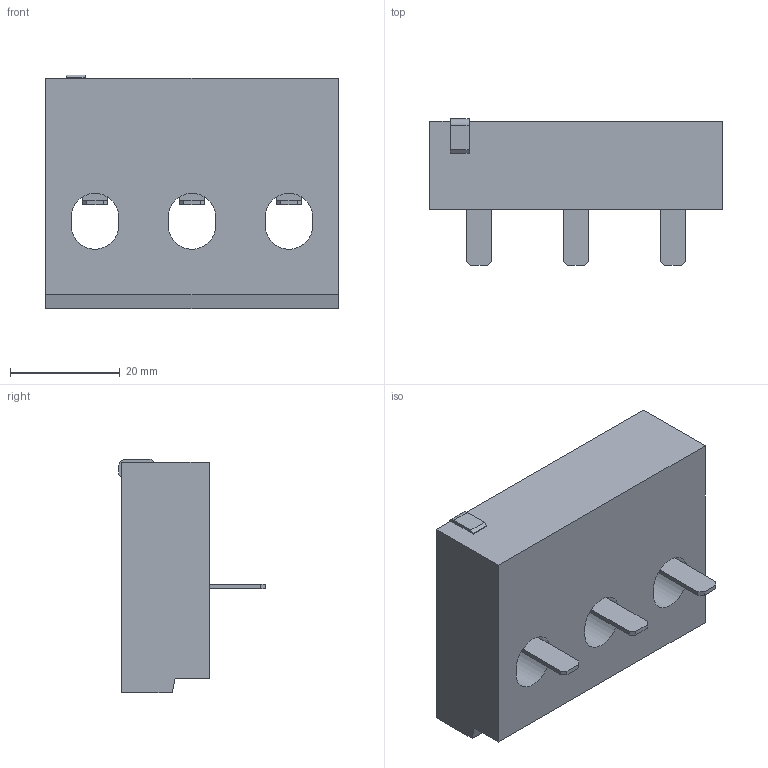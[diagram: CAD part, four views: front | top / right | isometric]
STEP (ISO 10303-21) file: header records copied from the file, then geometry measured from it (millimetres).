
FILE_DESCRIPTION((''),'2;1');
FILE_NAME('A9MEM1540_3D-SIMPLIFIED_ASM','2016-04-04T',('dlavaud'),(''),'PRO/ENGINEER BY PARAMETRIC TECHNOLOGY CORPORATION, 2006170','PRO/ENGINEER BY PARAMETRIC TECHNOLOGY CORPORATION, 2006170','');
FILE_SCHEMA(('CONFIG_CONTROL_DESIGN'));
Length unit declared in the file: millimetre
Products named in the file (4): CORPS; PIECE; SIMPLIFIED_ASM; A9MEM1540_3D-SIMPLIFIED_ASM
Assembly tree (3 placements, depth 3):
  A9MEM1540_3D-SIMPLIFIED_ASM
    SIMPLIFIED_ASM
      CORPS
      PIECE
Bounding box: 53.4 x 26.74 x 42.69 mm (x, y, z)
Volume: 31770.3 mm3; surface area: 9048.7 mm2
Topology: 4 solids, 4 shells, 64 faces, 168 edges, 112 vertices
Faces by surface type: plane 51, cylinder 13
Entity records: 2084 total; most frequent: CARTESIAN_POINT 353, DIRECTION 340, ORIENTED_EDGE 336, EDGE_CURVE 168, VECTOR 142, LINE 142, VERTEX_POINT 112, AXIS2_PLACEMENT_3D 99
